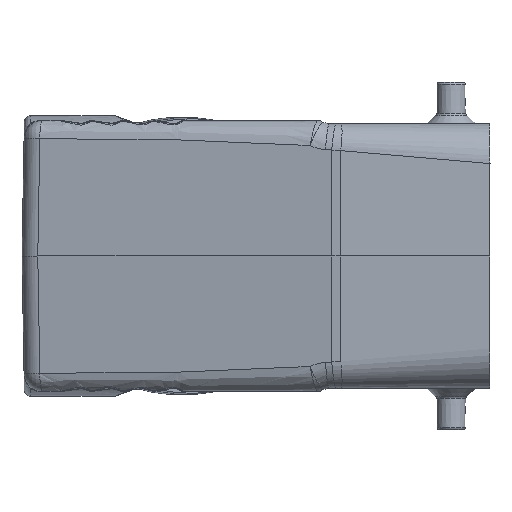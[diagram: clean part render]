
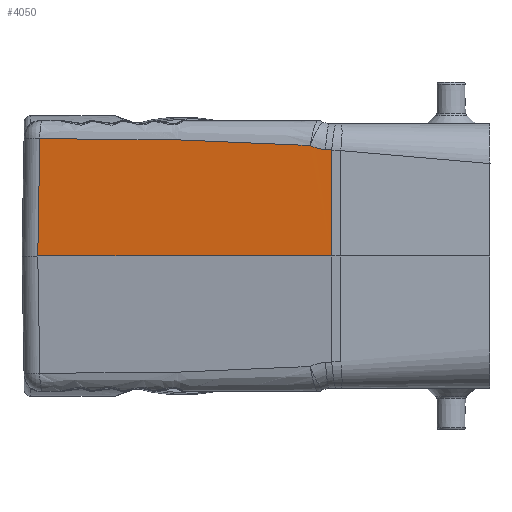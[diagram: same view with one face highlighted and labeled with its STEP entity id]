
A CAD part, left-side view. The second image highlights one B-rep face of the part: STEP entity #4050.
In plain terms, the highlighted planar face has unit normal (-0.989, 0.145, 0.018).
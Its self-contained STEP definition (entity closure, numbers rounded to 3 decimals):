
#74 = ORIENTED_EDGE ( 'NONE', *, *, #11208, .T. ) ;
#193 = CARTESIAN_POINT ( 'NONE',  ( -42.224, 53.505, 18.925 ) ) ;
#256 = AXIS2_PLACEMENT_3D ( 'NONE', #32126, #22522, #1918 ) ;
#264 = CARTESIAN_POINT ( 'NONE',  ( -46.343, 25.701, 17.218 ) ) ;
#416 = CARTESIAN_POINT ( 'NONE',  ( -42.58, 51.091, 18.869 ) ) ;
#571 = EDGE_CURVE ( 'NONE', #1273, #6297, #19227, .T. ) ;
#1273 = VERTEX_POINT ( 'NONE', #5815 ) ;
#1918 = DIRECTION ( 'NONE',  ( -0.145, -0.989, 0. ) ) ;
#2390 = CARTESIAN_POINT ( 'NONE',  ( -41.078, 61.286, 19.032 ) ) ;
#2507 = CARTESIAN_POINT ( 'NONE',  ( -42.81, 49.535, 18.829 ) ) ;
#2722 = CARTESIAN_POINT ( 'NONE',  ( -40.663, 64.104, 19.047 ) ) ;
#2818 = CARTESIAN_POINT ( 'NONE',  ( -39.34, 73.104, 19.052 ) ) ;
#2829 = CARTESIAN_POINT ( 'NONE',  ( -42.691, 50.343, 18.85 ) ) ;
#3569 = CARTESIAN_POINT ( 'NONE',  ( -46.129, 27.147, 17.307 ) ) ;
#4050 = ADVANCED_FACE ( 'NONE', ( #14534 ), #14456, .T. ) ;
#4206 = CARTESIAN_POINT ( 'NONE',  ( -45.936, 28.421, 17.599 ) ) ;
#4300 = VERTEX_POINT ( 'NONE', #24387 ) ;
#4959 = CARTESIAN_POINT ( 'NONE',  ( -40.97, 62.021, 19.037 ) ) ;
#5071 = CARTESIAN_POINT ( 'NONE',  ( -41.827, 56.199, 18.974 ) ) ;
#5193 = CARTESIAN_POINT ( 'NONE',  ( -42.605, 50.92, 18.864 ) ) ;
#5302 = CARTESIAN_POINT ( 'NONE',  ( -40.216, 67.143, 19.054 ) ) ;
#5623 = DIRECTION ( 'NONE',  ( -0.015, 0.017, -1. ) ) ;
#5815 = CARTESIAN_POINT ( 'NONE',  ( -46.343, 25.701, 17.218 ) ) ;
#5963 = CARTESIAN_POINT ( 'NONE',  ( -39.585, 71.433, 19.057 ) ) ;
#6297 = VERTEX_POINT ( 'NONE', #18543 ) ;
#6346 = CARTESIAN_POINT ( 'NONE',  ( -45.814, 29.221, 17.944 ) ) ;
#7476 = CARTESIAN_POINT ( 'NONE',  ( -45.277, 32.834, 18.162 ) ) ;
#7596 = CARTESIAN_POINT ( 'NONE',  ( -40.959, 62.097, 19.037 ) ) ;
#7708 = CARTESIAN_POINT ( 'NONE',  ( -40.985, 61.915, 19.036 ) ) ;
#7811 = CARTESIAN_POINT ( 'NONE',  ( -39.854, 69.604, 19.057 ) ) ;
#7925 = CARTESIAN_POINT ( 'NONE',  ( -41.635, 57.5, 18.994 ) ) ;
#8790 = VERTEX_POINT ( 'NONE', #9663 ) ;
#8805 = VECTOR ( 'NONE', #5623, 1000. ) ;
#9559 = CARTESIAN_POINT ( 'NONE',  ( -46.443, 25.709, 11.478 ) ) ;
#9663 = CARTESIAN_POINT ( 'NONE',  ( -46.193, 26.711, 17.282 ) ) ;
#9793 = LINE ( 'NONE', #28137, #29944 ) ;
#10038 = CARTESIAN_POINT ( 'NONE',  ( -40.284, 66.68, 19.053 ) ) ;
#10145 = B_SPLINE_CURVE_WITH_KNOTS ( 'NONE', 3,
 ( #11115, #3569, #16820, #4206, #24447, #6346 ),
 .UNSPECIFIED., .F., .F.,
 ( 4, 2, 4 ),
 ( 0., 0.5, 1. ),
 .UNSPECIFIED. ) ;
#10256 = CARTESIAN_POINT ( 'NONE',  ( -41.795, 56.419, 18.977 ) ) ;
#11115 = CARTESIAN_POINT ( 'NONE',  ( -46.193, 26.711, 17.282 ) ) ;
#11208 = EDGE_CURVE ( 'NONE', #1273, #8790, #25942, .T. ) ;
#11305 = CARTESIAN_POINT ( 'NONE',  ( -46.313, 25.906, 17.236 ) ) ;
#11982 = EDGE_CURVE ( 'NONE', #6297, #20821, #9793, .T. ) ;
#12713 = CARTESIAN_POINT ( 'NONE',  ( -40.416, 65.783, 19.051 ) ) ;
#12929 = CARTESIAN_POINT ( 'NONE',  ( -40.149, 67.6, 19.054 ) ) ;
#13600 = ORIENTED_EDGE ( 'NONE', *, *, #571, .F. ) ;
#14130 = EDGE_CURVE ( 'NONE', #24412, #20821, #15542, .T. ) ;
#14456 = PLANE ( 'NONE',  #256 ) ;
#14534 = FACE_OUTER_BOUND ( 'NONE', #27679, .T. ) ;
#15349 = CARTESIAN_POINT ( 'NONE',  ( -42.588, 51.036, 18.867 ) ) ;
#15542 = LINE ( 'NONE', #2818, #8805 ) ;
#15577 = CARTESIAN_POINT ( 'NONE',  ( -43.523, 44.7, 18.684 ) ) ;
#16820 = CARTESIAN_POINT ( 'NONE',  ( -46.064, 27.577, 17.376 ) ) ;
#17176 = CARTESIAN_POINT ( 'NONE',  ( -46.343, 25.701, 17.218 ) ) ;
#17205 = EDGE_CURVE ( 'NONE', #8790, #4300, #10145, .T. ) ;
#17658 = CARTESIAN_POINT ( 'NONE',  ( -43.048, 47.921, 18.784 ) ) ;
#17879 = CARTESIAN_POINT ( 'NONE',  ( -40.846, 62.865, 19.041 ) ) ;
#17985 = CARTESIAN_POINT ( 'NONE',  ( -44.471, 38.286, 18.442 ) ) ;
#18082 = CARTESIAN_POINT ( 'NONE',  ( -39.34, 73.104, 19.052 ) ) ;
#18543 = CARTESIAN_POINT ( 'NONE',  ( -46.644, 25.723, 0. ) ) ;
#19227 = B_SPLINE_CURVE_WITH_KNOTS ( 'NONE', 3,
 ( #17176, #9559, #32431, #27342 ),
 .UNSPECIFIED., .F., .F.,
 ( 4, 4 ),
 ( 0., 1. ),
 .UNSPECIFIED. ) ;
#20197 = CARTESIAN_POINT ( 'NONE',  ( -41.876, 55.868, 18.968 ) ) ;
#20314 = CARTESIAN_POINT ( 'NONE',  ( -42.631, 50.747, 18.86 ) ) ;
#20526 = CARTESIAN_POINT ( 'NONE',  ( -42.431, 52.104, 18.893 ) ) ;
#20821 = VERTEX_POINT ( 'NONE', #23925 ) ;
#21472 = CARTESIAN_POINT ( 'NONE',  ( -46.263, 26.243, 17.257 ) ) ;
#21941 = ORIENTED_EDGE ( 'NONE', *, *, #26626, .T. ) ;
#21944 = B_SPLINE_CURVE_WITH_KNOTS ( 'NONE', 3,
 ( #22752, #7476, #17985, #15577, #17658, #2507, #2829, #20314, #5193, #15349, #416, #20526, #193, #27814, #20197, #5071, #10256, #25503, #7925, #28139, #22862, #2390, #30351, #7708, #4959, #25407, #7596, #25283, #22651, #17879, #2722, #12713, #10038, #5302, #27701, #28022, #30581, #22983, #12929, #7811, #5963, #18082 ),
 .UNSPECIFIED., .F., .F.,
 ( 4, 1, 1, 1, 1, 1, 1, 2, 2, 1, 1, 1, 2, 2, 1, 1, 1, 1, 1, 1, 1, 2, 2, 1, 1, 1, 1, 1, 1, 2, 2, 4 ),
 ( 0., 0.25, 0.375, 0.438, 0.469, 0.484, 0.492, 0.496, 0.5, 0.563, 0.594, 0.609, 0.617, 0.625, 0.688, 0.719, 0.734, 0.742, 0.746, 0.748, 0.749, 0.75, 0.75, 0.813, 0.844, 0.859, 0.867, 0.871, 0.873, 0.874, 0.875, 1. ),
 .UNSPECIFIED. ) ;
#22522 = DIRECTION ( 'NONE',  ( -0.989, 0.145, 0.017 ) ) ;
#22651 = CARTESIAN_POINT ( 'NONE',  ( -40.955, 62.121, 19.037 ) ) ;
#22752 = CARTESIAN_POINT ( 'NONE',  ( -45.814, 29.221, 17.944 ) ) ;
#22862 = CARTESIAN_POINT ( 'NONE',  ( -41.2, 60.456, 19.026 ) ) ;
#22983 = CARTESIAN_POINT ( 'NONE',  ( -40.152, 67.581, 19.054 ) ) ;
#23557 = ORIENTED_EDGE ( 'NONE', *, *, #11982, .F. ) ;
#23925 = CARTESIAN_POINT ( 'NONE',  ( -39.627, 73.437, 0. ) ) ;
#24387 = CARTESIAN_POINT ( 'NONE',  ( -45.814, 29.221, 17.944 ) ) ;
#24412 = VERTEX_POINT ( 'NONE', #29185 ) ;
#24447 = CARTESIAN_POINT ( 'NONE',  ( -45.874, 28.828, 17.751 ) ) ;
#24952 = ORIENTED_EDGE ( 'NONE', *, *, #17205, .T. ) ;
#25283 = CARTESIAN_POINT ( 'NONE',  ( -40.957, 62.112, 19.037 ) ) ;
#25407 = CARTESIAN_POINT ( 'NONE',  ( -40.962, 62.074, 19.037 ) ) ;
#25503 = CARTESIAN_POINT ( 'NONE',  ( -41.778, 56.531, 18.979 ) ) ;
#25719 = DIRECTION ( 'NONE',  ( 0.145, 0.989, 0. ) ) ;
#25942 = B_SPLINE_CURVE_WITH_KNOTS ( 'NONE', 3,
 ( #264, #11305, #21472, #31514 ),
 .UNSPECIFIED., .F., .F.,
 ( 4, 4 ),
 ( 0., 1. ),
 .UNSPECIFIED. ) ;
#26626 = EDGE_CURVE ( 'NONE', #4300, #24412, #21944, .T. ) ;
#27342 = CARTESIAN_POINT ( 'NONE',  ( -46.644, 25.723, 0. ) ) ;
#27679 = EDGE_LOOP ( 'NONE', ( #74, #24952, #21941, #30280, #23557, #13600 ) ) ;
#27701 = CARTESIAN_POINT ( 'NONE',  ( -40.182, 67.378, 19.054 ) ) ;
#27814 = CARTESIAN_POINT ( 'NONE',  ( -41.991, 55.088, 18.955 ) ) ;
#28022 = CARTESIAN_POINT ( 'NONE',  ( -40.164, 67.496, 19.054 ) ) ;
#28137 = CARTESIAN_POINT ( 'NONE',  ( -46.75, 25., 0. ) ) ;
#28139 = CARTESIAN_POINT ( 'NONE',  ( -41.439, 58.832, 19.011 ) ) ;
#29185 = CARTESIAN_POINT ( 'NONE',  ( -39.34, 73.104, 19.052 ) ) ;
#29944 = VECTOR ( 'NONE', #25719, 1000. ) ;
#30280 = ORIENTED_EDGE ( 'NONE', *, *, #14130, .T. ) ;
#30351 = CARTESIAN_POINT ( 'NONE',  ( -41.016, 61.705, 19.035 ) ) ;
#30581 = CARTESIAN_POINT ( 'NONE',  ( -40.157, 67.547, 19.054 ) ) ;
#31514 = CARTESIAN_POINT ( 'NONE',  ( -46.193, 26.711, 17.282 ) ) ;
#32126 = CARTESIAN_POINT ( 'NONE',  ( -46.75, 25., 0. ) ) ;
#32431 = CARTESIAN_POINT ( 'NONE',  ( -46.543, 25.716, 5.739 ) ) ;
